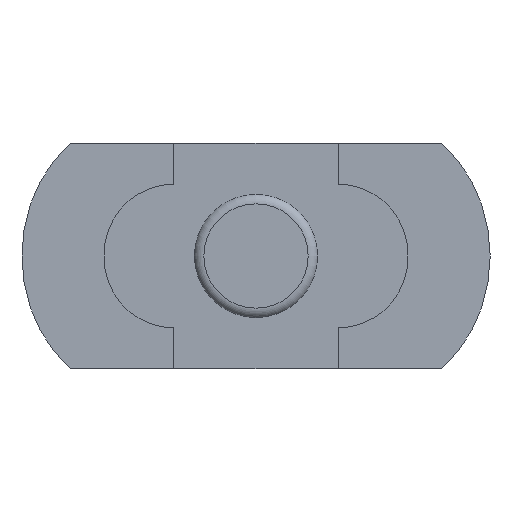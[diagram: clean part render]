
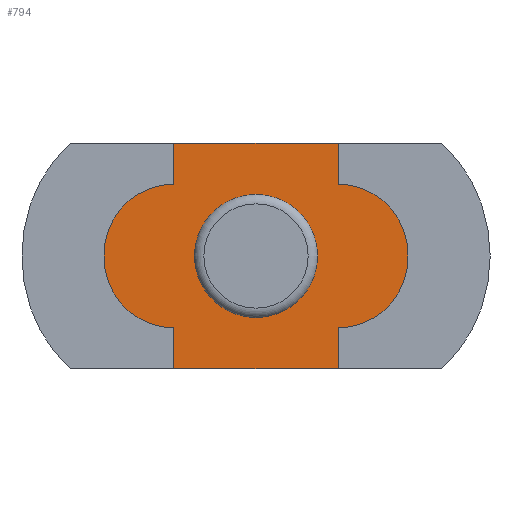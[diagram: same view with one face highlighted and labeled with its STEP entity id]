
A CAD part, left-side view. The second image highlights one B-rep face of the part: STEP entity #794.
In plain terms, the highlighted planar face has unit normal (-1, 0, 0).
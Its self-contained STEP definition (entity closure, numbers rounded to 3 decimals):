
#15=FACE_BOUND('',#293,.T.);
#65=LINE('',#1258,#145);
#69=LINE('',#1267,#149);
#71=LINE('',#1272,#151);
#74=LINE('',#1280,#154);
#78=LINE('',#1289,#158);
#80=LINE('',#1294,#160);
#83=LINE('',#1300,#163);
#84=LINE('',#1301,#164);
#145=VECTOR('',#1013,10.);
#149=VECTOR('',#1023,10.);
#151=VECTOR('',#1027,10.);
#154=VECTOR('',#1036,10.);
#158=VECTOR('',#1046,10.);
#160=VECTOR('',#1050,10.);
#163=VECTOR('',#1059,1.);
#164=VECTOR('',#1060,1.);
#210=PLANE('',#876);
#247=FACE_OUTER_BOUND('',#292,.T.);
#292=EDGE_LOOP('',(#662,#663,#664,#665,#666,#667,#668,#669,#670,#671,#672,
#673));
#293=EDGE_LOOP('',(#674));
#315=CIRCLE('',#830,3.);
#332=CIRCLE('',#864,3.4);
#333=CIRCLE('',#868,3.4);
#334=CIRCLE('',#871,3.4);
#335=CIRCLE('',#875,3.4);
#349=VERTEX_POINT('',#1153);
#386=VERTEX_POINT('',#1256);
#387=VERTEX_POINT('',#1257);
#388=VERTEX_POINT('',#1262);
#389=VERTEX_POINT('',#1266);
#390=VERTEX_POINT('',#1270);
#391=VERTEX_POINT('',#1271);
#392=VERTEX_POINT('',#1278);
#393=VERTEX_POINT('',#1279);
#394=VERTEX_POINT('',#1284);
#395=VERTEX_POINT('',#1288);
#396=VERTEX_POINT('',#1292);
#397=VERTEX_POINT('',#1293);
#424=EDGE_CURVE('',#349,#349,#315,.T.);
#473=EDGE_CURVE('',#386,#387,#65,.T.);
#476=EDGE_CURVE('',#387,#388,#332,.T.);
#478=EDGE_CURVE('',#388,#389,#69,.T.);
#480=EDGE_CURVE('',#390,#391,#71,.T.);
#483=EDGE_CURVE('',#391,#386,#333,.T.);
#484=EDGE_CURVE('',#392,#393,#74,.T.);
#487=EDGE_CURVE('',#393,#394,#334,.T.);
#489=EDGE_CURVE('',#394,#395,#78,.T.);
#491=EDGE_CURVE('',#396,#397,#80,.T.);
#494=EDGE_CURVE('',#397,#392,#335,.T.);
#495=EDGE_CURVE('',#389,#396,#83,.T.);
#496=EDGE_CURVE('',#395,#390,#84,.T.);
#662=ORIENTED_EDGE('',*,*,#478,.T.);
#663=ORIENTED_EDGE('',*,*,#495,.T.);
#664=ORIENTED_EDGE('',*,*,#491,.T.);
#665=ORIENTED_EDGE('',*,*,#494,.T.);
#666=ORIENTED_EDGE('',*,*,#484,.T.);
#667=ORIENTED_EDGE('',*,*,#487,.T.);
#668=ORIENTED_EDGE('',*,*,#489,.T.);
#669=ORIENTED_EDGE('',*,*,#496,.T.);
#670=ORIENTED_EDGE('',*,*,#480,.T.);
#671=ORIENTED_EDGE('',*,*,#483,.T.);
#672=ORIENTED_EDGE('',*,*,#473,.T.);
#673=ORIENTED_EDGE('',*,*,#476,.T.);
#674=ORIENTED_EDGE('',*,*,#424,.T.);
#794=ADVANCED_FACE('',(#247,#15),#210,.T.);
#830=AXIS2_PLACEMENT_3D('',#1155,#915,#916);
#864=AXIS2_PLACEMENT_3D('',#1263,#1018,#1019);
#868=AXIS2_PLACEMENT_3D('',#1276,#1032,#1033);
#871=AXIS2_PLACEMENT_3D('',#1285,#1041,#1042);
#875=AXIS2_PLACEMENT_3D('',#1298,#1055,#1056);
#876=AXIS2_PLACEMENT_3D('',#1299,#1057,#1058);
#915=DIRECTION('center_axis',(1.,0.,0.));
#916=DIRECTION('ref_axis',(0.,0.,1.));
#1013=DIRECTION('',(0.,0.,1.));
#1018=DIRECTION('center_axis',(-1.,0.,0.));
#1019=DIRECTION('ref_axis',(0.,-1.,0.));
#1023=DIRECTION('',(0.,0.,1.));
#1027=DIRECTION('',(0.,0.,1.));
#1032=DIRECTION('center_axis',(-1.,0.,0.));
#1033=DIRECTION('ref_axis',(0.,0.,-1.));
#1036=DIRECTION('',(0.,0.,-1.));
#1041=DIRECTION('center_axis',(-1.,0.,0.));
#1042=DIRECTION('ref_axis',(0.,1.,0.));
#1046=DIRECTION('',(0.,0.,-1.));
#1050=DIRECTION('',(0.,0.,-1.));
#1055=DIRECTION('center_axis',(-1.,0.,0.));
#1056=DIRECTION('ref_axis',(0.,0.,1.));
#1057=DIRECTION('center_axis',(-1.,0.,0.));
#1058=DIRECTION('ref_axis',(0.,0.,1.));
#1059=DIRECTION('',(0.,1.,0.));
#1060=DIRECTION('',(0.,-1.,0.));
#1153=CARTESIAN_POINT('',(39.3,-11.,-9.));
#1155=CARTESIAN_POINT('Origin',(39.3,-11.,-12.));
#1256=CARTESIAN_POINT('',(39.3,-18.4,-12.1));
#1257=CARTESIAN_POINT('',(39.3,-18.4,-11.9));
#1258=CARTESIAN_POINT('',(39.3,-18.4,-11.95));
#1262=CARTESIAN_POINT('',(39.3,-15.,-8.5));
#1263=CARTESIAN_POINT('Origin',(39.3,-15.,-11.9));
#1266=CARTESIAN_POINT('',(39.3,-15.,-6.5));
#1267=CARTESIAN_POINT('',(39.3,-15.,-9.25));
#1270=CARTESIAN_POINT('',(39.3,-15.,-17.5));
#1271=CARTESIAN_POINT('',(39.3,-15.,-15.5));
#1272=CARTESIAN_POINT('',(39.3,-15.,-13.75));
#1276=CARTESIAN_POINT('Origin',(39.3,-15.,-12.1));
#1278=CARTESIAN_POINT('',(39.3,-3.6,-11.9));
#1279=CARTESIAN_POINT('',(39.3,-3.6,-12.1));
#1280=CARTESIAN_POINT('',(39.3,-3.6,-12.05));
#1284=CARTESIAN_POINT('',(39.3,-7.,-15.5));
#1285=CARTESIAN_POINT('Origin',(39.3,-7.,-12.1));
#1288=CARTESIAN_POINT('',(39.3,-7.,-17.5));
#1289=CARTESIAN_POINT('',(39.3,-7.,-14.75));
#1292=CARTESIAN_POINT('',(39.3,-7.,-6.5));
#1293=CARTESIAN_POINT('',(39.3,-7.,-8.5));
#1294=CARTESIAN_POINT('',(39.3,-7.,-10.25));
#1298=CARTESIAN_POINT('Origin',(39.3,-7.,-11.9));
#1299=CARTESIAN_POINT('Origin',(39.3,-11.,-12.));
#1300=CARTESIAN_POINT('',(39.3,-15.,-6.5));
#1301=CARTESIAN_POINT('',(39.3,-7.,-17.5));
